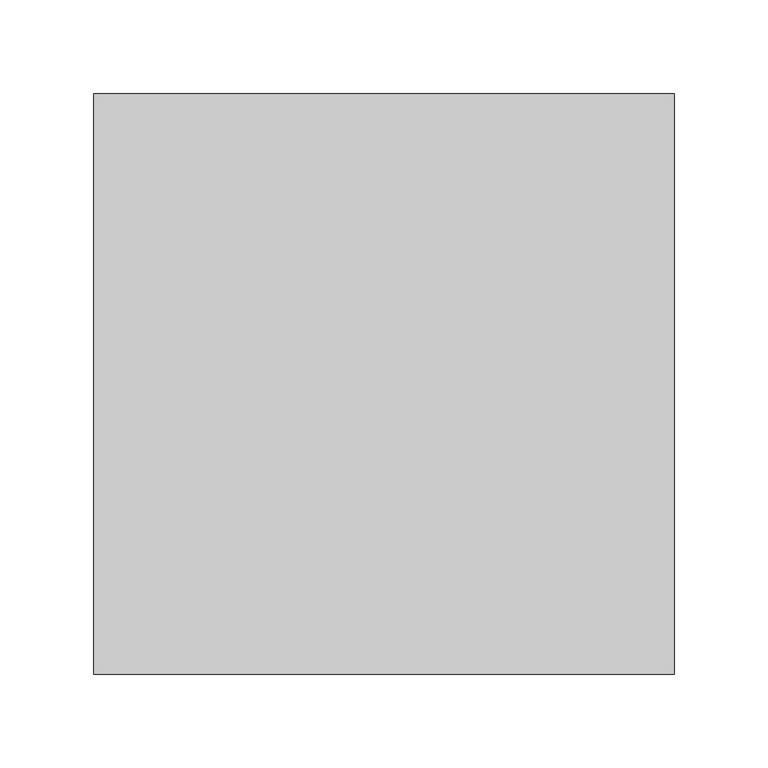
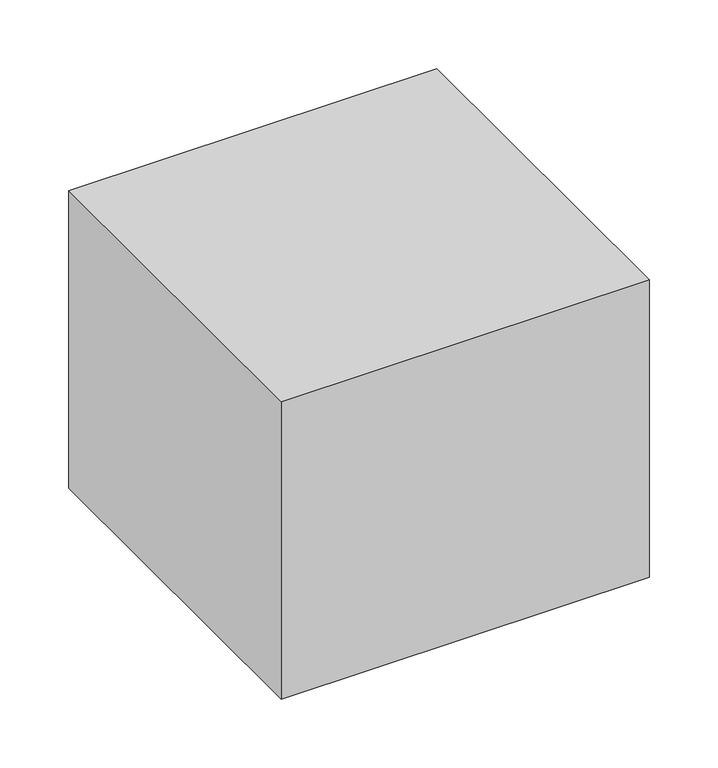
"""IFC4 building model written with IfcOpenShell, lengths in millimetres: proxy geometry, ▲GM_Зона обслуживания : Тип."""

from ifc_helpers import new_model, si_unit, origin, origin_with_axes, place, context, project, spatial, polyline, outline, extrude, source, transform, mapped, element, save


def generic_models_925cb547(model_context):
    return source(origin(), model_context, "Body", "SweptSolid", [
        extrude(outline(polyline([(310.0, -310.0), (0.0, -310.0), (0.0, 0.0), (310.0, 0.0), (310.0, -310.0)])), origin_with_axes(), (0.0, 0.0, 1.0), 265.0),
    ])


if __name__ == "__main__":
    model = new_model("IFC4")
    model_context = context("Model", 3, world=origin())
    ifc_project = project(units=[si_unit("LENGTHUNIT", "METRE", prefix="MILLI")], contexts=[model_context])
    site = spatial("IfcSite", under=ifc_project)
    building = spatial("IfcBuilding", under=site)
    placement = place(None, origin())
    generic_models_shape = generic_models_925cb547(model_context)
    element("IfcBuildingElementProxy", 1, Name="▲GM_Зона обслуживания : Тип", ObjectType="▲GM_Зона обслуживания : Тип", at=placement, inside=building, context=model_context, shape_type="MappedRepresentation", body=[
        mapped(generic_models_shape, transform((0.0, 0.0, 0.0), x_axis=(1.0, 0.0, 0.0), y_axis=(0.0, 1.0, 0.0), z_axis=(0.0, 0.0, 1.0))),
    ])
    save(model, "model.ifc")
